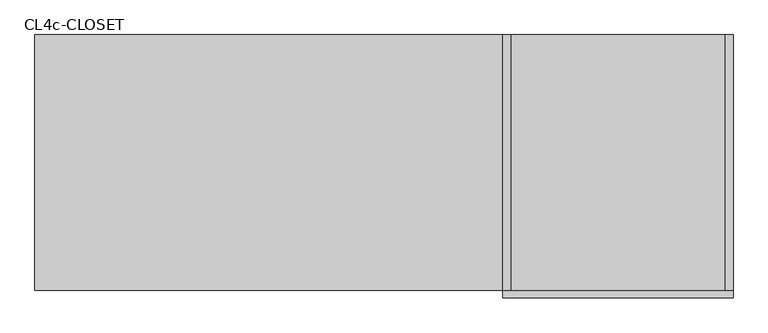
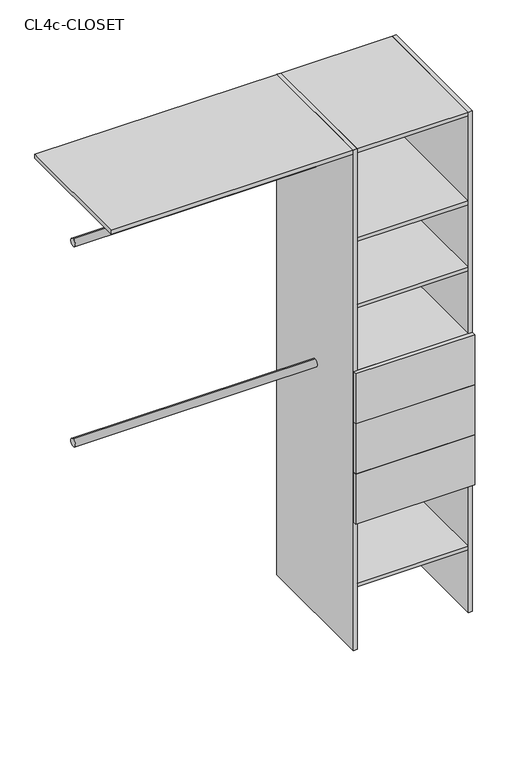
"""IFC4 building model written with IfcOpenShell, lengths in millimetres: furniture geometry, Closet 1estantes-1tubos_sin laterales : CL4c-CLOSET."""

import ifcopenshell
import ifcopenshell.guid

model = None  # the IFC model being written
_history = None  # IfcOwnerHistory: only IFC2X3 demands one
_inside = {}  # id of a spatial element -> (the spatial element, [elements in it])
_under = {}  # id of a project, library or spatial element -> (it, [spatial elements below it])
_declared = {}  # id of a project -> (the project, [libraries it declares])
_typed = {}  # id of a type object -> (the type object, [elements of that type])
_made_of = {}  # id of a material, layer set ... -> (it, [elements and type objects made of it])


def new_model(schema):
    """Start an empty IFC model of exactly this schema.

    Asked for "IFC4X3", IfcOpenShell would pick the latest addendum, in which some entities
    have other attributes; the version numbers below select the first issue.
    IFC2X3 requires an IfcOwnerHistory on every rooted entity: one is made here for all.
    """
    global model, _history
    if schema == "IFC4X3":
        model = ifcopenshell.file(schema_version=(4, 3, 0, 0))
    else:
        model = ifcopenshell.file(schema=schema)
    _inside.clear()
    _under.clear()
    _declared.clear()
    _typed.clear()
    _made_of.clear()
    _history = None
    if model.schema == "IFC2X3":
        org = make("IfcOrganization", Name="unknown")
        user = make(
            "IfcPersonAndOrganization",
            ThePerson=make("IfcPerson", FamilyName="unknown"),
            TheOrganization=org,
        )
        app = make(
            "IfcApplication",
            ApplicationDeveloper=org,
            Version="unknown",
            ApplicationFullName="unknown",
            ApplicationIdentifier="unknown",
        )
        _history = make(
            "IfcOwnerHistory",
            OwningUser=user,
            OwningApplication=app,
            ChangeAction="ADDED",
            CreationDate=0,
        )
    return model


def make(cls, **values):
    """One entity of the class cls with the attributes given. An attribute that is None is left unset."""
    return model.create_entity(
        cls, **{name: value for name, value in values.items() if value is not None}
    )


def rooted(cls, **values):
    """An entity with a GlobalId (a new one), such as an element, a storey or a relation."""
    return make(cls, GlobalId=ifcopenshell.guid.new(), OwnerHistory=_history, **values)


def si_unit(unit_type, name, prefix=None):
    """IfcSIUnit, for example si_unit("LENGTHUNIT", "METRE", prefix="MILLI")."""
    return make("IfcSIUnit", UnitType=unit_type, Prefix=prefix, Name=name)


def assignment(units):
    """IfcUnitAssignment: the units of a project."""
    return None if units is None else make("IfcUnitAssignment", Units=units)


def point(xyz):
    """IfcCartesianPoint."""
    return None if xyz is None else make("IfcCartesianPoint", Coordinates=xyz)


def direction(xyz):
    """IfcDirection."""
    return None if xyz is None else make("IfcDirection", DirectionRatios=xyz)


def frame(location, z_axis=None, x_axis=None):
    """IfcAxis2Placement3D, a coordinate frame: its origin and axes. An axis left out is left unset."""
    return make(
        "IfcAxis2Placement3D",
        Location=point(location),
        Axis=direction(z_axis),
        RefDirection=direction(x_axis),
    )


def frame_2d(location, x_axis=None):
    """IfcAxis2Placement2D, a coordinate frame in the plane: its origin and x axis."""
    return make(
        "IfcAxis2Placement2D", Location=point(location), RefDirection=direction(x_axis)
    )


def origin():
    """The frame at (0, 0, 0) with its axes left unset."""
    return frame((0.0, 0.0, 0.0))


def origin_with_axes():
    """The frame at (0, 0, 0) with the z axis (0, 0, 1) and the x axis (1, 0, 0) written out."""
    return frame((0.0, 0.0, 0.0), z_axis=(0.0, 0.0, 1.0), x_axis=(1.0, 0.0, 0.0))


def place(relative_to, where):
    """IfcLocalPlacement: puts the frame where relative to a parent placement (None: the world)."""
    return make(
        "IfcLocalPlacement", PlacementRelTo=relative_to, RelativePlacement=where
    )


def context(
    kind, dimensions, precision=None, world=None, true_north=None, identifier=None
):
    """IfcGeometricRepresentationContext, for example the 3D "Model" context."""
    return make(
        "IfcGeometricRepresentationContext",
        ContextIdentifier=identifier,
        ContextType=kind,
        CoordinateSpaceDimension=dimensions,
        Precision=precision,
        WorldCoordinateSystem=world,
        TrueNorth=true_north,
    )


def project(units=None, contexts=None):
    """IfcProject with its units and contexts."""
    return rooted(
        "IfcProject",
        Name="project",
        RepresentationContexts=contexts,
        UnitsInContext=assignment(units),
    )


def spatial(cls, under=None, at=None, **own):
    """A site, building, storey or space (cls), placed at a placement, below another one or the project."""
    s = rooted(cls, ObjectPlacement=at, **own)
    if under is not None:
        _under.setdefault(under.id(), (under, []))[1].append(s)
    return s


def polyline(points):
    """IfcPolyline through the points."""
    return make("IfcPolyline", Points=[point(p) for p in points])


def circle_curve(where, radius):
    """IfcCircle in the frame where."""
    return make("IfcCircle", Position=where, Radius=radius)


def trimmed(basis, trim1, trim2, sense, master):
    """IfcTrimmedCurve: the piece of a basis curve between two trims."""
    return make(
        "IfcTrimmedCurve",
        BasisCurve=basis,
        Trim1=trim1,
        Trim2=trim2,
        SenseAgreement=sense,
        MasterRepresentation=master,
    )


def segment(curve, same_sense, transition):
    """IfcCompositeCurveSegment."""
    return make(
        "IfcCompositeCurveSegment",
        Transition=transition,
        SameSense=same_sense,
        ParentCurve=curve,
    )


def composite_curve(segments, self_intersect=None):
    """IfcCompositeCurve: segments joined end to end."""
    return make("IfcCompositeCurve", Segments=segments, SelfIntersect=self_intersect)


def outline(outer, holes=None, kind="AREA"):
    """IfcArbitraryClosedProfileDef: a profile drawn as a closed curve; with holes, ...WithVoids."""
    if holes is None:
        return make("IfcArbitraryClosedProfileDef", ProfileType=kind, OuterCurve=outer)
    return make(
        "IfcArbitraryProfileDefWithVoids",
        ProfileType=kind,
        OuterCurve=outer,
        InnerCurves=holes,
    )


def extrude(swept, where, along, depth):
    """IfcExtrudedAreaSolid: the profile swept, set in the frame where, extruded along a direction by depth."""
    return make(
        "IfcExtrudedAreaSolid",
        SweptArea=swept,
        Position=where,
        ExtrudedDirection=direction(along),
        Depth=depth,
    )


def shape(context_of_items, identifier, shape_type, items):
    """IfcShapeRepresentation: the items that make up one representation, for example the "Body"."""
    return make(
        "IfcShapeRepresentation",
        ContextOfItems=context_of_items,
        RepresentationIdentifier=identifier,
        RepresentationType=shape_type,
        Items=items,
    )


def source(mapping_origin, context_of_items, identifier, shape_type, items):
    """IfcRepresentationMap: a shape defined once, which mapped items show again and again."""
    return make(
        "IfcRepresentationMap",
        MappingOrigin=mapping_origin,
        MappedRepresentation=shape(context_of_items, identifier, shape_type, items),
    )


def transform(
    local_origin,
    x_axis=None,
    y_axis=None,
    z_axis=None,
    scale=None,
    scale2=None,
    scale3=None,
    uniform=True,
):
    """IfcCartesianTransformationOperator3D, or its non-uniform kind. x_axis, y_axis, z_axis: its Axis1, 2, 3."""
    if uniform:
        return make(
            "IfcCartesianTransformationOperator3D",
            Axis1=direction(x_axis),
            Axis2=direction(y_axis),
            LocalOrigin=point(local_origin),
            Scale=scale,
            Axis3=direction(z_axis),
        )
    return make(
        "IfcCartesianTransformationOperator3DnonUniform",
        Axis1=direction(x_axis),
        Axis2=direction(y_axis),
        LocalOrigin=point(local_origin),
        Scale=scale,
        Axis3=direction(z_axis),
        Scale2=scale2,
        Scale3=scale3,
    )


def mapped(mapping_source, mapping_target):
    """IfcMappedItem: shows the shape of a source again, moved by a transform."""
    return make(
        "IfcMappedItem", MappingSource=mapping_source, MappingTarget=mapping_target
    )


def made_of(thing, what):
    """Note that an element or type object is made of a material, layer set ...; save() writes the relation."""
    if what is not None:
        _made_of.setdefault(what.id(), (what, []))[1].append(thing)
    return thing


def element(
    cls,
    number,
    at=None,
    inside=None,
    cuts=None,
    type_object=None,
    material=None,
    context=None,
    identifier="Body",
    shape_type=None,
    held_by="IfcProductDefinitionShape",
    body=None,
    shapes=None,
    **own,
):
    """One element of the class cls, such as IfcWall. Its Tag is "e" and its number.

    at: its placement. inside: the storey or other place that contains it. cuts: it is an
    opening in that element (IfcRelVoidsElement). A single representation is given by context,
    identifier, shape_type and body (its items); several are given by shapes. held_by: the class
    of the entity that holds the representations. save() writes the other relations.
    """
    e = rooted(cls, Tag="e%d" % number, ObjectPlacement=at, **own)
    if body is not None:
        shapes = [shape(context, identifier, shape_type, body)]
    if shapes is not None:
        e.Representation = make(held_by, Representations=shapes)
    if inside is not None:
        _inside.setdefault(inside.id(), (inside, []))[1].append(e)
    if cuts is not None:
        rooted(
            "IfcRelVoidsElement", RelatingBuildingElement=cuts, RelatedOpeningElement=e
        )
    if type_object is not None:
        _typed.setdefault(type_object.id(), (type_object, []))[1].append(e)
    return made_of(e, material)


def aggregate(whole, parts):
    """IfcRelAggregates: a whole, such as a stair, and the parts it consists of."""
    return rooted("IfcRelAggregates", RelatingObject=whole, RelatedObjects=parts)


def save(model, path):
    """Write the relations noted so far, then the file.

    IfcRelAggregates (storeys below a building ...), IfcRelContainedInSpatialStructure (elements
    in a storey), IfcRelDefinesByType, IfcRelAssociatesMaterial and IfcRelDeclares: one each for
    every whole, place, type object, material and project.
    """
    for whole, parts in _under.values():
        aggregate(whole, parts)
    for where, things in _inside.values():
        rooted(
            "IfcRelContainedInSpatialStructure",
            RelatedElements=things,
            RelatingStructure=where,
        )
    for kind, things in _typed.values():
        rooted("IfcRelDefinesByType", RelatedObjects=things, RelatingType=kind)
    for what, things in _made_of.values():
        rooted("IfcRelAssociatesMaterial", RelatedObjects=things, RelatingMaterial=what)
    for by, libraries in _declared.values():
        rooted("IfcRelDeclares", RelatingContext=by, RelatedDefinitions=libraries)
    model.write(path)


def cl4c_closet_576a11e8(model_context):
    return source(origin(), model_context, "Body", "SweptSolid", [
        extrude(outline(polyline([(225.0, 100.0), (210.0, 100.0), (210.0, 600.0), (225.0, 600.0), (225.0, 100.0)])), origin_with_axes(), (0.0, 0.0, 1.0), 2000.0),
        extrude(outline(polyline([(-210.0, 100.0), (-225.0, 100.0), (-225.0, 600.0), (-210.0, 600.0), (-210.0, 100.0)])), origin_with_axes(), (0.0, 0.0, 1.0), 2000.0),
        extrude(outline(polyline([(225.0, 100.0), (225.0, 85.0), (-225.0, 85.0), (-225.0, 100.0), (225.0, 100.0)])), frame((0.0, 0.0, 915.0), z_axis=(0.0, 0.0, 1.0), x_axis=(1.0, 0.0, 0.0)), (0.0, 0.0, 1.0), 200.0),
        extrude(outline(polyline([(225.0, 100.0), (225.0, 85.0), (-225.0, 85.0), (-225.0, 100.0), (225.0, 100.0)])), frame((0.0, 0.0, 715.0), z_axis=(0.0, 0.0, 1.0), x_axis=(1.0, 0.0, 0.0)), (0.0, 0.0, 1.0), 200.0),
        extrude(outline(polyline([(225.0, 100.0), (225.0, 85.0), (-225.0, 85.0), (-225.0, 100.0), (225.0, 100.0)])), frame((0.0, 0.0, 515.0), z_axis=(0.0, 0.0, 1.0), x_axis=(1.0, 0.0, 0.0)), (0.0, 0.0, 1.0), 200.0),
        extrude(outline(polyline([(210.0, 100.0), (-210.0, 100.0), (-210.0, 600.0), (210.0, 600.0), (210.0, 100.0)])), frame((0.0, 0.0, 1100.0), z_axis=(0.0, 0.0, 1.0), x_axis=(1.0, 0.0, 0.0)), (0.0, 0.0, 1.0), 15.0),
        extrude(outline(composite_curve([segment(trimmed(circle_curve(frame_2d((350.0, 1000.0)), 15.0), [point((350.0, 1015.0))], [point((350.0, 985.0))], False, "CARTESIAN"), True, "CONTINUOUS"), segment(trimmed(circle_curve(frame_2d((350.0, 1000.0)), 15.0), [point((350.0, 985.0))], [point((350.0, 1015.0))], False, "CARTESIAN"), True, "CONTINUOUS")], self_intersect=False)), frame((-1140.0, 0.0, 0.0), z_axis=(1.0, 0.0, 0.0), x_axis=(0.0, 1.0, 0.0)), (0.0, 0.0, 1.0), 915.0),
        extrude(outline(composite_curve([segment(trimmed(circle_curve(frame_2d((350.0, 1800.0)), 15.0), [point((350.0, 1815.0))], [point((350.0, 1785.0))], False, "CARTESIAN"), True, "CONTINUOUS"), segment(trimmed(circle_curve(frame_2d((350.0, 1800.0)), 15.0), [point((350.0, 1785.0))], [point((350.0, 1815.0))], False, "CARTESIAN"), True, "CONTINUOUS")], self_intersect=False)), frame((-1140.0, 0.0, 0.0), z_axis=(1.0, 0.0, 0.0), x_axis=(0.0, 1.0, 0.0)), (0.0, 0.0, 1.0), 915.0),
        extrude(outline(polyline([(210.0, 100.0), (-210.0, 100.0), (-210.0, 600.0), (210.0, 600.0), (210.0, 100.0)])), frame((0.0, 0.0, 250.0), z_axis=(0.0, 0.0, 1.0), x_axis=(1.0, 0.0, 0.0)), (0.0, 0.0, 1.0), 15.0),
        extrude(outline(polyline([(210.0, 100.0), (-210.0, 100.0), (-210.0, 600.0), (210.0, 600.0), (210.0, 100.0)])), frame((0.0, 0.0, 515.0), z_axis=(0.0, 0.0, 1.0), x_axis=(1.0, 0.0, 0.0)), (0.0, 0.0, 1.0), 15.0),
        extrude(outline(polyline([(210.0, 100.0), (-210.0, 100.0), (-210.0, 600.0), (210.0, 600.0), (210.0, 100.0)])), frame((0.0, 0.0, 1365.0), z_axis=(0.0, 0.0, 1.0), x_axis=(1.0, 0.0, 0.0)), (0.0, 0.0, 1.0), 15.0),
        extrude(outline(polyline([(210.0, 100.0), (-210.0, 100.0), (-210.0, 600.0), (210.0, 600.0), (210.0, 100.0)])), frame((0.0, 0.0, 1630.0), z_axis=(0.0, 0.0, 1.0), x_axis=(1.0, 0.0, 0.0)), (0.0, 0.0, 1.0), 15.0),
        extrude(outline(polyline([(-210.0, 100.0), (-1140.0, 100.0), (-1140.0, 600.0), (-210.0, 600.0), (-210.0, 100.0)])), frame((0.0, 0.0, 1985.0), z_axis=(0.0, 0.0, 1.0), x_axis=(1.0, 0.0, 0.0)), (0.0, 0.0, 1.0), 15.0),
        extrude(outline(polyline([(210.0, 100.0), (-210.0, 100.0), (-210.0, 600.0), (210.0, 600.0), (210.0, 100.0)])), frame((0.0, 0.0, 1985.0), z_axis=(0.0, 0.0, 1.0), x_axis=(1.0, 0.0, 0.0)), (0.0, 0.0, 1.0), 15.0),
    ])


if __name__ == "__main__":
    model = new_model("IFC4")
    model_context = context("Model", 3, world=origin())
    ifc_project = project(units=[si_unit("LENGTHUNIT", "METRE", prefix="MILLI")], contexts=[model_context])
    site = spatial("IfcSite", under=ifc_project)
    building = spatial("IfcBuilding", under=site)
    placement = place(None, origin())
    cl4c_closet_shape = cl4c_closet_576a11e8(model_context)
    element("IfcFurniture", 1, ObjectType="Closet 1estantes-1tubos_sin laterales : CL4c-CLOSET", at=placement, inside=building, context=model_context, shape_type="MappedRepresentation", body=[
        mapped(cl4c_closet_shape, transform((0.0, 0.0, 0.0), x_axis=(1.0, 0.0, 0.0), y_axis=(0.0, 1.0, 0.0), z_axis=(0.0, 0.0, 1.0))),
    ])
    save(model, "model.ifc")
